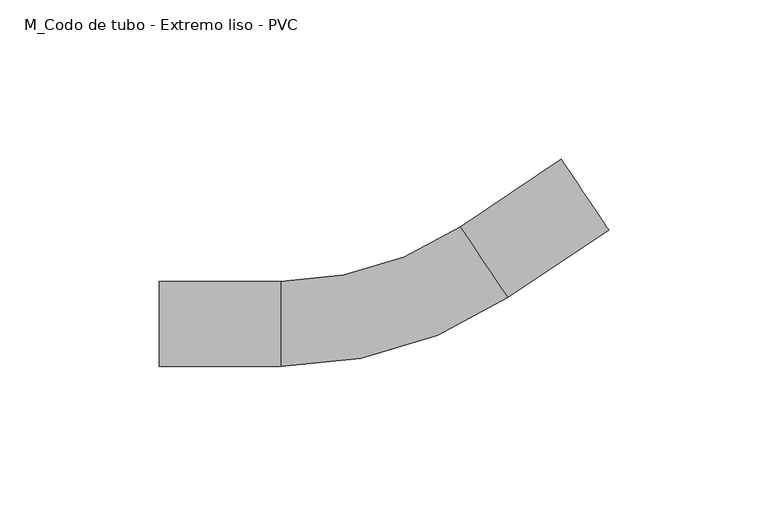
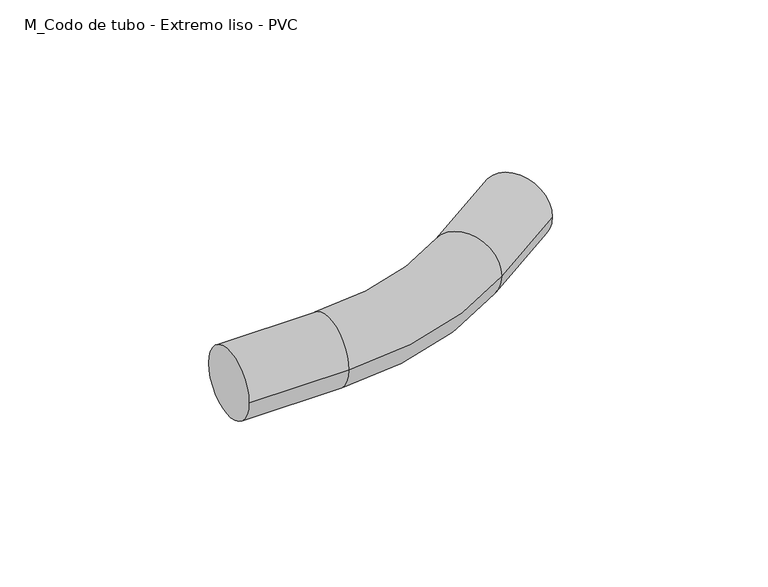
"""IFC4 building model written with IfcOpenShell, lengths in millimetres: cable carrier fitting geometry, M_Codo de tubo - Extremo liso - PVC : CODO ILUMINACION."""

from ifc_helpers import new_model, si_unit, point, frame, origin, place, context, project, spatial, circle_curve, ellipse_curve, trimmed, source, transform, mapped, element, save
from ifc_brep_helpers import plane_surface, cylinder_surface, revolved_surface, advanced_brep


def m_codo_de_tubo_extremo_liso_pvc_83fe7b68(model_context):
    return source(origin(), model_context, "Body", "AdvancedBrep", [
        advanced_brep(
        [(-72.869131, -13.335, 0.0), (-72.869131, 13.335, 0.0), (-34.769131, -13.335, 0.0), (-34.769131, 13.335, 0.0), (21.4538681, 30.4375794, 0.0), (36.3052264, 8.2852419, 0.0), (67.9514229, 29.501468, 0.0), (53.1000646, 51.6538055, 0.0)],
        [
            (0, 1, circle_curve(frame((-72.869131, 0.0, 0.0), z_axis=(-1.0, 0.0, 0.0), x_axis=(0.0, 1.0, 0.0)), 13.335)),
            (1, 0, circle_curve(frame((-72.869131, 0.0, 0.0), z_axis=(-1.0, 0.0, 0.0), x_axis=(0.0, 1.0, 0.0)), 13.335)),
            (0, 2),
            (2, 3, circle_curve(frame((-34.769131, 0.0, 0.0), z_axis=(-1.0, 0.0, 0.0), x_axis=(0.0, 1.0, 0.0)), 13.335)),
            (3, 1),
            (3, 2, circle_curve(frame((-34.769131, 0.0, 0.0), z_axis=(-1.0, 0.0, 0.0), x_axis=(0.0, 1.0, 0.0)), 13.335)),
            (4, 3, circle_curve(frame((-34.769131, 114.3, 0.0), z_axis=(0.0, 0.0, -1.0), x_axis=(0.0, -1.0, 0.0)), 100.965)),
            (2, 5, circle_curve(frame((-34.769131, 114.3, 0.0), z_axis=(0.0, 0.0, 1.0), x_axis=(0.0, -1.0, 0.0)), 127.635)),
            (5, 4, circle_curve(frame((28.8795473, 19.3614106, 0.0), z_axis=(-0.830608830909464, -0.5568563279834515, 0.0), x_axis=(-0.5568563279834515, 0.830608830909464, 0.0)), 13.335)),
            (4, 5, circle_curve(frame((28.8795473, 19.3614106, 0.0), z_axis=(-0.830608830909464, -0.5568563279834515, 0.0), x_axis=(-0.5568563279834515, 0.830608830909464, 0.0)), 13.335)),
            (6, 7, circle_curve(frame((60.5257437, 40.5776367, 0.0), z_axis=(0.8306088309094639, 0.5568563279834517, 0.0), x_axis=(-0.5568563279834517, 0.8306088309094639, 0.0)), 13.335)),
            (7, 6, circle_curve(frame((60.5257437, 40.5776367, 0.0), z_axis=(0.8306088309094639, 0.5568563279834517, 0.0), x_axis=(-0.5568563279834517, 0.8306088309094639, 0.0)), 13.335)),
            (5, 6),
            (7, 4),
        ],
        [
            plane_surface(frame((-72.869131, 0.0, 0.0), z_axis=(-1.0, 0.0, 0.0), x_axis=(0.0, 0.0, 1.0))),
            cylinder_surface(frame((-72.869131, 0.0, 0.0), z_axis=(-1.0, 0.0, 0.0), x_axis=(0.0, 1.0, 0.0)), 13.335),
            revolved_surface(trimmed(ellipse_curve(frame((-34.769131, 0.0, 0.0), z_axis=(-1.0, 0.0, 0.0), x_axis=(0.0, 1.0, 0.0)), 13.335, 13.335), [point((-34.769131, -13.335, 0.0))], [point((-34.769131, 13.335, 0.0))], True, "CARTESIAN"), (-34.769131, 114.3, 0.0), (0.0, 0.0, 1.0)),
            revolved_surface(trimmed(ellipse_curve(frame((-34.769131, 0.0, 0.0), z_axis=(-1.0, 0.0, 0.0), x_axis=(0.0, 1.0, 0.0)), 13.335, 13.335), [point((-34.769131, 13.335, 0.0))], [point((-34.769131, -13.335, 0.0))], True, "CARTESIAN"), (-34.769131, 114.3, 0.0), (0.0, 0.0, 1.0)),
            plane_surface(frame((60.5257437, 40.5776367, 0.0), z_axis=(0.8306088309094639, 0.5568563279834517, 0.0), x_axis=(0.0, 0.0, 1.0))),
            cylinder_surface(frame((28.8795473, 19.3614106, 0.0), z_axis=(-0.8306088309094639, -0.5568563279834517, 0.0), x_axis=(-0.5568563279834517, 0.8306088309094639, 0.0)), 13.335),
        ],
        [
            (0, [[1, 2]]),
            (1, [[-1, 3, 4, 5]]),
            (1, [[-2, -5, 6, -3]]),
            (2, [[7, -4, 8, 9]]),
            (3, [[-8, -6, -7, 10]]),
            (4, [[11, 12]]),
            (5, [[-9, 13, -12, 14]]),
            (5, [[-10, -14, -11, -13]]),
        ],
    ),
    ])


if __name__ == "__main__":
    model = new_model("IFC4")
    model_context = context("Model", 3, world=origin())
    ifc_project = project(units=[si_unit("LENGTHUNIT", "METRE", prefix="MILLI")], contexts=[model_context])
    site = spatial("IfcSite", under=ifc_project)
    building = spatial("IfcBuilding", under=site)
    placement = place(None, origin())
    m_codo_de_tubo_extremo_liso_pvc_shape = m_codo_de_tubo_extremo_liso_pvc_83fe7b68(model_context)
    element("IfcCableCarrierFitting", 1, ObjectType="M_Codo de tubo - Extremo liso - PVC : CODO ILUMINACION", at=placement, inside=building, context=model_context, shape_type="MappedRepresentation", body=[
        mapped(m_codo_de_tubo_extremo_liso_pvc_shape, transform((0.0, 0.0, 0.0), x_axis=(1.0, 0.0, 0.0), y_axis=(0.0, 1.0, 0.0), z_axis=(0.0, 0.0, 1.0))),
    ])
    save(model, "model.ifc")
